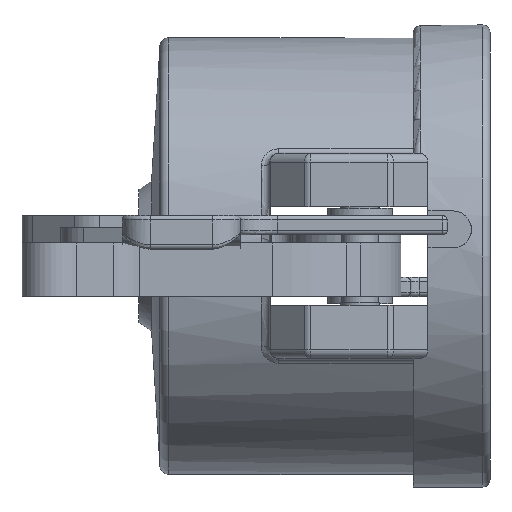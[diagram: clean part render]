
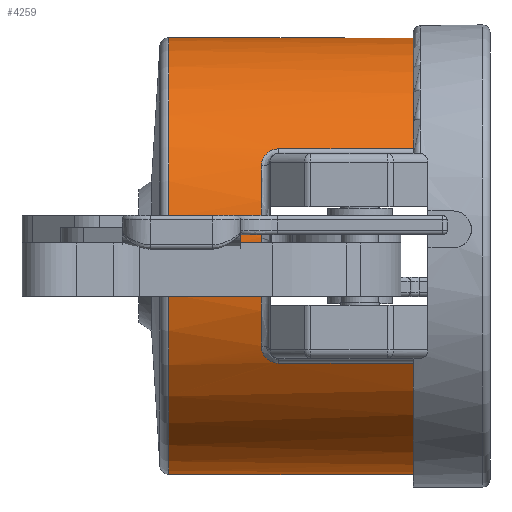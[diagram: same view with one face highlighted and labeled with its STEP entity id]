
A CAD part, front view. The second image highlights one B-rep face of the part: STEP entity #4259.
In plain terms, the highlighted cylindrical face has radius 37.592 mm (diameter 75.184 mm), a full revolution.
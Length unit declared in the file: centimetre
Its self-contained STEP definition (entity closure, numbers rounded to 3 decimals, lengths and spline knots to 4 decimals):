
#115=B_SPLINE_CURVE_WITH_KNOTS('',3,(#7506,#7507,#7508,#7509,#7510,#7511,
#7512,#7513,#7514,#7515,#7516,#7517,#7518),.UNSPECIFIED.,.F.,.U.,(4,3,3,
3,4),(0.,0.1916,0.3471,0.4443,0.505),
 .UNSPECIFIED.);
#116=B_SPLINE_CURVE_WITH_KNOTS('',3,(#7522,#7523,#7524,#7525,#7526,#7527,
#7528,#7529,#7530,#7531,#7532,#7533,#7534),.UNSPECIFIED.,.F.,.U.,(4,3,3,
3,4),(0.,0.171,0.3367,0.4403,0.5051),
 .UNSPECIFIED.);
#117=B_SPLINE_CURVE_WITH_KNOTS('',3,(#7539,#7540,#7541,#7542,#7543,#7544,
#7545,#7546,#7547,#7548,#7549,#7550,#7551),.UNSPECIFIED.,.F.,.U.,(4,3,3,
3,4),(0.,0.1916,0.3471,0.4443,0.505),
 .UNSPECIFIED.);
#118=B_SPLINE_CURVE_WITH_KNOTS('',3,(#7555,#7556,#7557,#7558,#7559,#7560,
#7561,#7562,#7563,#7564,#7565,#7566,#7567),.UNSPECIFIED.,.F.,.U.,(4,3,3,
3,4),(0.,0.171,0.3367,0.4403,0.5051),
 .UNSPECIFIED.);
#269=VECTOR('',#5381,1.);
#270=VECTOR('',#5384,1.);
#271=VECTOR('',#5385,1.);
#272=VECTOR('',#5388,1.);
#520=LINE('',#7503,#269);
#521=LINE('',#7536,#270);
#522=LINE('',#7537,#271);
#523=LINE('',#7569,#272);
#1362=CYLINDRICAL_SURFACE('',#4629,3.7592);
#1602=VERTEX_POINT('',#7488);
#1603=VERTEX_POINT('',#7490);
#1606=VERTEX_POINT('',#7498);
#1607=VERTEX_POINT('',#7504);
#1608=VERTEX_POINT('',#7505);
#1609=VERTEX_POINT('',#7519);
#1610=VERTEX_POINT('',#7521);
#1611=VERTEX_POINT('',#7535);
#1612=VERTEX_POINT('',#7538);
#1613=VERTEX_POINT('',#7552);
#1614=VERTEX_POINT('',#7554);
#1615=VERTEX_POINT('',#7568);
#1616=VERTEX_POINT('',#7570);
#1861=CIRCLE('',#4621,3.7592);
#1864=CIRCLE('',#4625,3.7592);
#1867=CIRCLE('',#4630,3.7592);
#1868=CIRCLE('',#4631,3.7592);
#2233=EDGE_CURVE('',#1602,#1603,#1861,.T.);
#2237=EDGE_CURVE('',#1606,#1606,#1864,.T.);
#2240=EDGE_CURVE('',#1607,#1608,#520,.T.);
#2241=EDGE_CURVE('',#1609,#1607,#115,.T.);
#2242=EDGE_CURVE('',#1610,#1609,#1867,.T.);
#2243=EDGE_CURVE('',#1611,#1610,#116,.T.);
#2244=EDGE_CURVE('',#1603,#1611,#521,.T.);
#2245=EDGE_CURVE('',#1612,#1602,#522,.T.);
#2246=EDGE_CURVE('',#1613,#1612,#117,.T.);
#2247=EDGE_CURVE('',#1614,#1613,#1868,.T.);
#2248=EDGE_CURVE('',#1615,#1614,#118,.T.);
#2249=EDGE_CURVE('',#1616,#1615,#523,.T.);
#2250=EDGE_CURVE('',#1608,#1616,#1861,.T.);
#3052=ORIENTED_EDGE('',*,*,#2240,.F.);
#3053=ORIENTED_EDGE('',*,*,#2241,.F.);
#3054=ORIENTED_EDGE('',*,*,#2242,.F.);
#3055=ORIENTED_EDGE('',*,*,#2243,.F.);
#3056=ORIENTED_EDGE('',*,*,#2244,.F.);
#3057=ORIENTED_EDGE('',*,*,#2233,.F.);
#3058=ORIENTED_EDGE('',*,*,#2245,.F.);
#3059=ORIENTED_EDGE('',*,*,#2246,.F.);
#3060=ORIENTED_EDGE('',*,*,#2247,.F.);
#3061=ORIENTED_EDGE('',*,*,#2248,.F.);
#3062=ORIENTED_EDGE('',*,*,#2249,.F.);
#3063=ORIENTED_EDGE('',*,*,#2250,.F.);
#3064=ORIENTED_EDGE('',*,*,#2237,.F.);
#3716=EDGE_LOOP('',(#3052,#3053,#3054,#3055,#3056,#3057,#3058,#3059,#3060,
#3061,#3062,#3063));
#3717=EDGE_LOOP('',(#3064));
#4001=FACE_BOUND('',#3716,.T.);
#4002=FACE_BOUND('',#3717,.T.);
#4259=ADVANCED_FACE('',(#4001,#4002),#1362,.T.);
#4621=AXIS2_PLACEMENT_3D('',#7489,#5363,#5364);
#4625=AXIS2_PLACEMENT_3D('',#7497,#5371,#5372);
#4629=AXIS2_PLACEMENT_3D('',#7502,#5379,#5380);
#4630=AXIS2_PLACEMENT_3D('',#7520,#5382,#5383);
#4631=AXIS2_PLACEMENT_3D('',#7553,#5386,#5387);
#5363=DIRECTION('',(1.,0.,0.));
#5364=DIRECTION('',(0.,0.,-3.759));
#5371=DIRECTION('',(-1.,0.,0.));
#5372=DIRECTION('',(0.,0.,3.759));
#5379=DIRECTION('',(-1.,0.,0.));
#5380=DIRECTION('',(0.,0.,-3.759));
#5381=DIRECTION('',(1.,0.,0.));
#5382=DIRECTION('',(1.,0.,0.));
#5383=DIRECTION('',(0.,-3.759,0.));
#5384=DIRECTION('',(-1.,0.,0.));
#5385=DIRECTION('',(1.,0.,0.));
#5386=DIRECTION('',(1.,0.,0.));
#5387=DIRECTION('',(0.,3.759,0.));
#5388=DIRECTION('',(-1.,0.,0.));
#7488=CARTESIAN_POINT('',(-1.3208,3.2764,1.843));
#7489=CARTESIAN_POINT('',(-1.3208,0.,0.));
#7490=CARTESIAN_POINT('',(-1.3208,-3.2764,1.843));
#7497=CARTESIAN_POINT('',(-5.5253,0.,0.));
#7498=CARTESIAN_POINT('',(-5.5253,0.,-3.7592));
#7502=CARTESIAN_POINT('',(0.,0.,0.));
#7503=CARTESIAN_POINT('',(0.,-3.2764,-1.843));
#7504=CARTESIAN_POINT('',(-3.6322,-3.2764,-1.843));
#7505=CARTESIAN_POINT('',(-1.3208,-3.2764,-1.843));
#7506=CARTESIAN_POINT('',(-3.937,-3.4247,-1.5501));
#7507=CARTESIAN_POINT('',(-3.937,-3.3994,-1.606));
#7508=CARTESIAN_POINT('',(-3.9203,-3.3726,-1.6613));
#7509=CARTESIAN_POINT('',(-3.8883,-3.3483,-1.7089));
#7510=CARTESIAN_POINT('',(-3.8623,-3.3286,-1.7476));
#7511=CARTESIAN_POINT('',(-3.8262,-3.3106,-1.7811));
#7512=CARTESIAN_POINT('',(-3.7823,-3.2975,-1.805));
#7513=CARTESIAN_POINT('',(-3.7548,-3.2893,-1.82));
#7514=CARTESIAN_POINT('',(-3.7247,-3.2832,-1.8309));
#7515=CARTESIAN_POINT('',(-3.6928,-3.2797,-1.8371));
#7516=CARTESIAN_POINT('',(-3.6729,-3.2775,-1.841));
#7517=CARTESIAN_POINT('',(-3.6524,-3.2764,-1.843));
#7518=CARTESIAN_POINT('',(-3.6322,-3.2764,-1.843));
#7519=CARTESIAN_POINT('',(-3.937,-3.4247,-1.5501));
#7520=CARTESIAN_POINT('',(-3.937,0.,0.));
#7521=CARTESIAN_POINT('',(-3.937,-3.4247,1.5501));
#7522=CARTESIAN_POINT('',(-3.6322,-3.2764,1.843));
#7523=CARTESIAN_POINT('',(-3.6892,-3.2764,1.843));
#7524=CARTESIAN_POINT('',(-3.7459,-3.2855,1.827));
#7525=CARTESIAN_POINT('',(-3.7927,-3.3007,1.7991));
#7526=CARTESIAN_POINT('',(-3.8381,-3.3155,1.7721));
#7527=CARTESIAN_POINT('',(-3.8744,-3.3355,1.7345));
#7528=CARTESIAN_POINT('',(-3.8991,-3.3571,1.6916));
#7529=CARTESIAN_POINT('',(-3.9144,-3.3706,1.6648));
#7530=CARTESIAN_POINT('',(-3.9252,-3.3846,1.6362));
#7531=CARTESIAN_POINT('',(-3.9313,-3.3987,1.6065));
#7532=CARTESIAN_POINT('',(-3.9351,-3.4074,1.5879));
#7533=CARTESIAN_POINT('',(-3.937,-3.4162,1.569));
#7534=CARTESIAN_POINT('',(-3.937,-3.4247,1.5501));
#7535=CARTESIAN_POINT('',(-3.6322,-3.2764,1.843));
#7536=CARTESIAN_POINT('',(0.,-3.2764,1.843));
#7537=CARTESIAN_POINT('',(0.,3.2764,1.843));
#7538=CARTESIAN_POINT('',(-3.6322,3.2764,1.843));
#7539=CARTESIAN_POINT('',(-3.937,3.4247,1.5501));
#7540=CARTESIAN_POINT('',(-3.937,3.3994,1.606));
#7541=CARTESIAN_POINT('',(-3.9203,3.3726,1.6613));
#7542=CARTESIAN_POINT('',(-3.8883,3.3483,1.7089));
#7543=CARTESIAN_POINT('',(-3.8623,3.3286,1.7476));
#7544=CARTESIAN_POINT('',(-3.8262,3.3106,1.7811));
#7545=CARTESIAN_POINT('',(-3.7823,3.2975,1.805));
#7546=CARTESIAN_POINT('',(-3.7548,3.2893,1.82));
#7547=CARTESIAN_POINT('',(-3.7247,3.2832,1.8309));
#7548=CARTESIAN_POINT('',(-3.6928,3.2797,1.8371));
#7549=CARTESIAN_POINT('',(-3.6729,3.2775,1.841));
#7550=CARTESIAN_POINT('',(-3.6524,3.2764,1.843));
#7551=CARTESIAN_POINT('',(-3.6322,3.2764,1.843));
#7552=CARTESIAN_POINT('',(-3.937,3.4247,1.5501));
#7553=CARTESIAN_POINT('',(-3.937,0.,0.));
#7554=CARTESIAN_POINT('',(-3.937,3.4247,-1.5501));
#7555=CARTESIAN_POINT('',(-3.6322,3.2764,-1.843));
#7556=CARTESIAN_POINT('',(-3.6892,3.2764,-1.843));
#7557=CARTESIAN_POINT('',(-3.7459,3.2855,-1.827));
#7558=CARTESIAN_POINT('',(-3.7927,3.3007,-1.7991));
#7559=CARTESIAN_POINT('',(-3.8381,3.3155,-1.7721));
#7560=CARTESIAN_POINT('',(-3.8744,3.3355,-1.7345));
#7561=CARTESIAN_POINT('',(-3.8991,3.3571,-1.6916));
#7562=CARTESIAN_POINT('',(-3.9144,3.3706,-1.6648));
#7563=CARTESIAN_POINT('',(-3.9252,3.3846,-1.6362));
#7564=CARTESIAN_POINT('',(-3.9313,3.3987,-1.6065));
#7565=CARTESIAN_POINT('',(-3.9351,3.4074,-1.5879));
#7566=CARTESIAN_POINT('',(-3.937,3.4162,-1.569));
#7567=CARTESIAN_POINT('',(-3.937,3.4247,-1.5501));
#7568=CARTESIAN_POINT('',(-3.6322,3.2764,-1.843));
#7569=CARTESIAN_POINT('',(0.,3.2764,-1.843));
#7570=CARTESIAN_POINT('',(-1.3208,3.2764,-1.843));
